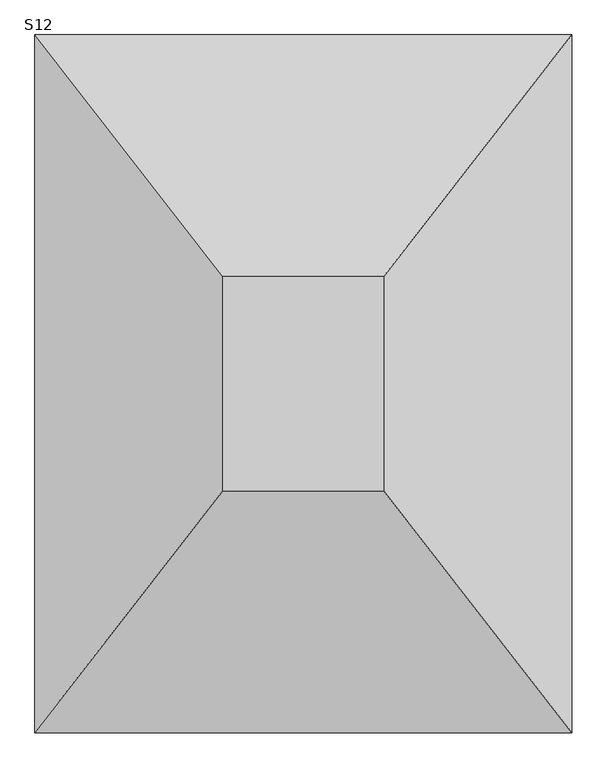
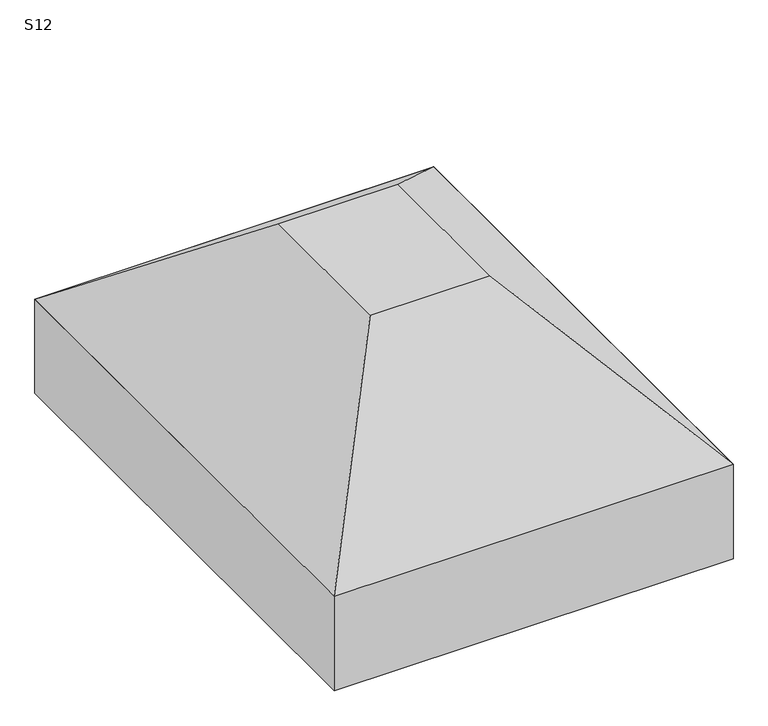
"""IFC4 building model written with IfcOpenShell, lengths in millimetres: fastener geometry, TQS - Sapata : S12."""

from ifc_helpers import new_model, si_unit, frame, origin, place, context, project, spatial, polyline, outline, extrude, faceted_brep, source, transform, mapped, element, save


def s12_a84d267b(model_context):
    return source(origin(), model_context, "Body", "SolidModel", [
        faceted_brep([(-50.0, 0.0, 0.0), (-350.0, 0.0, 0.0), (-350.0, -400.0, 0.0), (-50.0, -400.0, 0.0), (300.0, 450.0, -350.0), (300.0, -850.0, -350.0), (-700.0, -850.0, -350.0), (-700.0, 450.0, -350.0)], [[[0, 1, 2, 3]], [[4, 5, 6, 7]], [[4, 7, 1, 0]], [[7, 6, 2, 1]], [[6, 5, 3, 2]], [[5, 4, 0, 3]]]),
        extrude(outline(polyline([(300.0, 450.0), (300.0, -850.0), (-700.0, -850.0), (-700.0, 450.0), (300.0, 450.0)])), frame((0.0, 0.0, -600.0), z_axis=(0.0, 0.0, 1.0), x_axis=(1.0, 0.0, 0.0)), (0.0, 0.0, 1.0), 250.0),
    ])


if __name__ == "__main__":
    model = new_model("IFC4")
    model_context = context("Model", 3, world=origin())
    ifc_project = project(units=[si_unit("LENGTHUNIT", "METRE", prefix="MILLI")], contexts=[model_context])
    site = spatial("IfcSite", under=ifc_project)
    building = spatial("IfcBuilding", under=site)
    placement = place(None, origin())
    s12_shape = s12_a84d267b(model_context)
    element("IfcFastener", 1, ObjectType="TQS - Sapata : S12", at=placement, inside=building, context=model_context, shape_type="MappedRepresentation", body=[
        mapped(s12_shape, transform((0.0, 0.0, 0.0), x_axis=(1.0, 0.0, 0.0), y_axis=(0.0, 1.0, 0.0), z_axis=(0.0, 0.0, 1.0))),
    ])
    save(model, "model.ifc")
